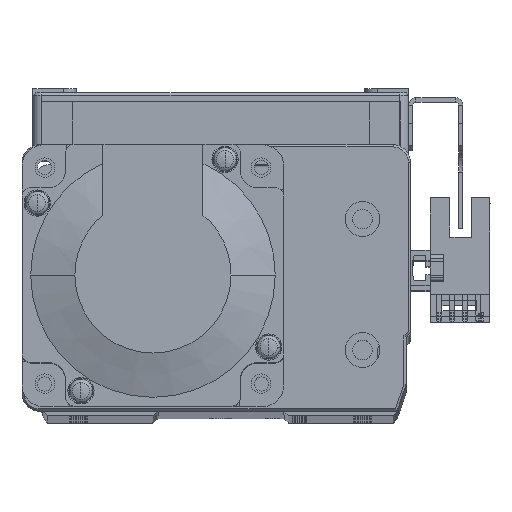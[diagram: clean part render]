
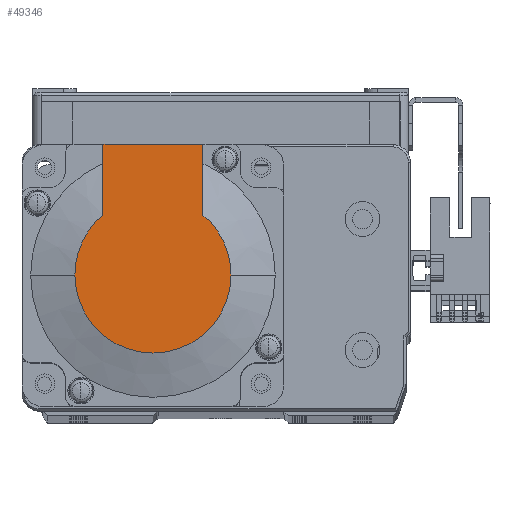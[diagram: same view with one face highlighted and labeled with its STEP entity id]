
A CAD part, top view. The second image highlights one B-rep face of the part: STEP entity #49346.
In plain terms, the highlighted planar face has unit normal (0, 0, 1) as drawn and (-1, 0, 0) by its records, which use the part's own axes.
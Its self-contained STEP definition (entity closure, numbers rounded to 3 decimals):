
#1244 = CIRCLE ( 'NONE', #14311, 17.881 ) ;
#1467 = LINE ( 'NONE', #10180, #1496 ) ;
#1496 = VECTOR ( 'NONE', #10194, 1000. ) ;
#1557 = VECTOR ( 'NONE', #10222, 1000. ) ;
#1567 = LINE ( 'NONE', #10249, #1614 ) ;
#1601 = LINE ( 'NONE', #10247, #1557 ) ;
#1614 = VECTOR ( 'NONE', #10257, 1000. ) ;
#4070 = VERTEX_POINT ( 'NONE', #9459 ) ;
#4113 = VERTEX_POINT ( 'NONE', #9546 ) ;
#4176 = VERTEX_POINT ( 'NONE', #9577 ) ;
#4295 = VERTEX_POINT ( 'NONE', #9746 ) ;
#4334 = VERTEX_POINT ( 'NONE', #9711 ) ;
#4390 = VERTEX_POINT ( 'NONE', #9779 ) ;
#8040 = CIRCLE ( 'NONE', #14895, 17.881 ) ;
#8122 = CIRCLE ( 'NONE', #14966, 17.881 ) ;
#9459 = CARTESIAN_POINT ( 'NONE',  ( -99., 13.735, 11.45 ) ) ;
#9546 = CARTESIAN_POINT ( 'NONE',  ( -99., 0., 17.881 ) ) ;
#9577 = CARTESIAN_POINT ( 'NONE',  ( -99., 0., -17.881 ) ) ;
#9711 = CARTESIAN_POINT ( 'NONE',  ( -99., 30., -11.45 ) ) ;
#9746 = CARTESIAN_POINT ( 'NONE',  ( -99., 13.735, -11.45 ) ) ;
#9779 = CARTESIAN_POINT ( 'NONE',  ( -99., 30., 11.45 ) ) ;
#10061 = DIRECTION ( 'NONE',  ( 0., 0., -1. ) ) ;
#10065 = DIRECTION ( 'NONE',  ( -1., 0., 0. ) ) ;
#10074 = CARTESIAN_POINT ( 'NONE',  ( -99., 0., 0. ) ) ;
#10180 = CARTESIAN_POINT ( 'NONE',  ( -99., 0., 11.45 ) ) ;
#10194 = DIRECTION ( 'NONE',  ( 0., -1., 0. ) ) ;
#10222 = DIRECTION ( 'NONE',  ( 0., 0., 1. ) ) ;
#10247 = CARTESIAN_POINT ( 'NONE',  ( -99., 30., 25. ) ) ;
#10249 = CARTESIAN_POINT ( 'NONE',  ( -99., -8.941, -11.45 ) ) ;
#10257 = DIRECTION ( 'NONE',  ( 0., -1., 0. ) ) ;
#11895 = EDGE_CURVE ( 'NONE', #4295, #4176, #1244, .T. ) ;
#11968 = EDGE_CURVE ( 'NONE', #4390, #4070, #1467, .T. ) ;
#11991 = EDGE_CURVE ( 'NONE', #4334, #4390, #1601, .T. ) ;
#12000 = EDGE_CURVE ( 'NONE', #4334, #4295, #1567, .T. ) ;
#13586 = EDGE_CURVE ( 'NONE', #4113, #4070, #8040, .T. ) ;
#13630 = EDGE_CURVE ( 'NONE', #4176, #4113, #8122, .T. ) ;
#14311 = AXIS2_PLACEMENT_3D ( 'NONE', #10074, #10065, #10061 ) ;
#14895 = AXIS2_PLACEMENT_3D ( 'NONE', #27483, #27472, #27451 ) ;
#14966 = AXIS2_PLACEMENT_3D ( 'NONE', #27602, #27594, #27601 ) ;
#17478 = AXIS2_PLACEMENT_3D ( 'NONE', #33349, #33336, #33337 ) ;
#27451 = DIRECTION ( 'NONE',  ( 0., 0., -1. ) ) ;
#27472 = DIRECTION ( 'NONE',  ( -1., 0., 0. ) ) ;
#27483 = CARTESIAN_POINT ( 'NONE',  ( -99., 0., 0. ) ) ;
#27594 = DIRECTION ( 'NONE',  ( -1., 0., 0. ) ) ;
#27601 = DIRECTION ( 'NONE',  ( 0., 0., -1. ) ) ;
#27602 = CARTESIAN_POINT ( 'NONE',  ( -99., 0., 0. ) ) ;
#33336 = DIRECTION ( 'NONE',  ( -1., 0., 0. ) ) ;
#33337 = DIRECTION ( 'NONE',  ( 0., 0., 1. ) ) ;
#33340 = PLANE ( 'NONE',  #17478 ) ;
#33349 = CARTESIAN_POINT ( 'NONE',  ( -99., -8.941, 0. ) ) ;
#33689 = FACE_OUTER_BOUND ( 'NONE', #41714, .T. ) ;
#41714 = EDGE_LOOP ( 'NONE', ( #43484, #43521, #43542, #43548, #43508, #43539 ) ) ;
#43484 = ORIENTED_EDGE ( 'NONE', *, *, #12000, .T. ) ;
#43508 = ORIENTED_EDGE ( 'NONE', *, *, #11968, .F. ) ;
#43521 = ORIENTED_EDGE ( 'NONE', *, *, #11895, .T. ) ;
#43539 = ORIENTED_EDGE ( 'NONE', *, *, #11991, .F. ) ;
#43542 = ORIENTED_EDGE ( 'NONE', *, *, #13630, .T. ) ;
#43548 = ORIENTED_EDGE ( 'NONE', *, *, #13586, .T. ) ;
#49346 = ADVANCED_FACE ( 'NONE', ( #33689 ), #33340, .T. ) ;
